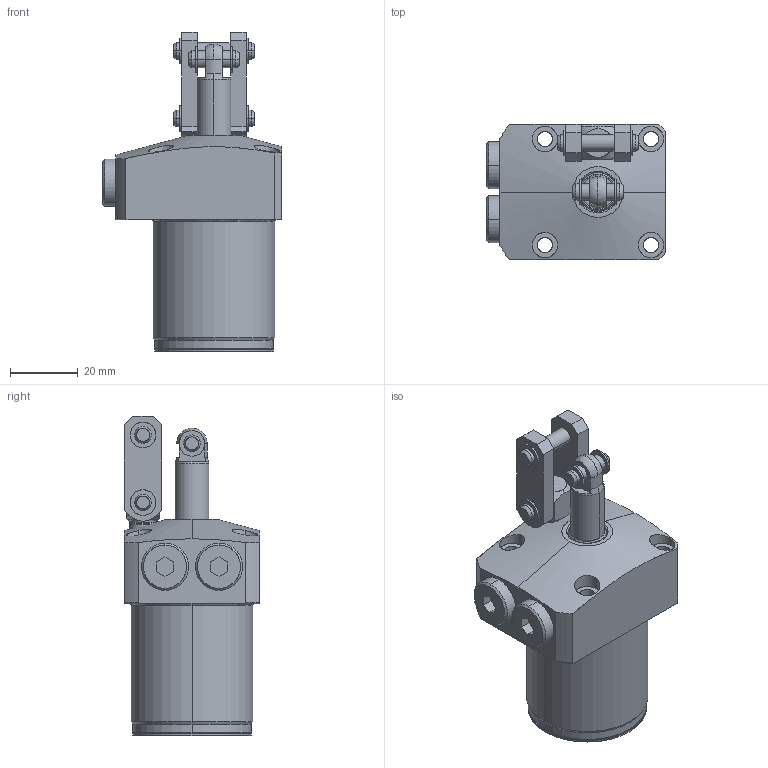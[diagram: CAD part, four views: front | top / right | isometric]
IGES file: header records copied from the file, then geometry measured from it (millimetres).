
Start section: SolidWorks IGES file using analytic representation for surfaces
Global section: file name: C:\Documents and Settings\nijil\My Documents\Clasys1\LQ Series\36\0401-0083.IGS; native system: SolidWorks 2010; preprocessor: SolidWorks 2010; author: nijil; date: 130723.115706; units: millimetre
Bounding box: 53 x 40 x 94.5 mm (x, y, z)
Surface area: 17810.3 mm2 (no closed solid volume)
Topology: 0 solids, 0 shells, 200 faces, 3518 edges, 3516 vertices
Faces by surface type: revolution 119, bspline 81
